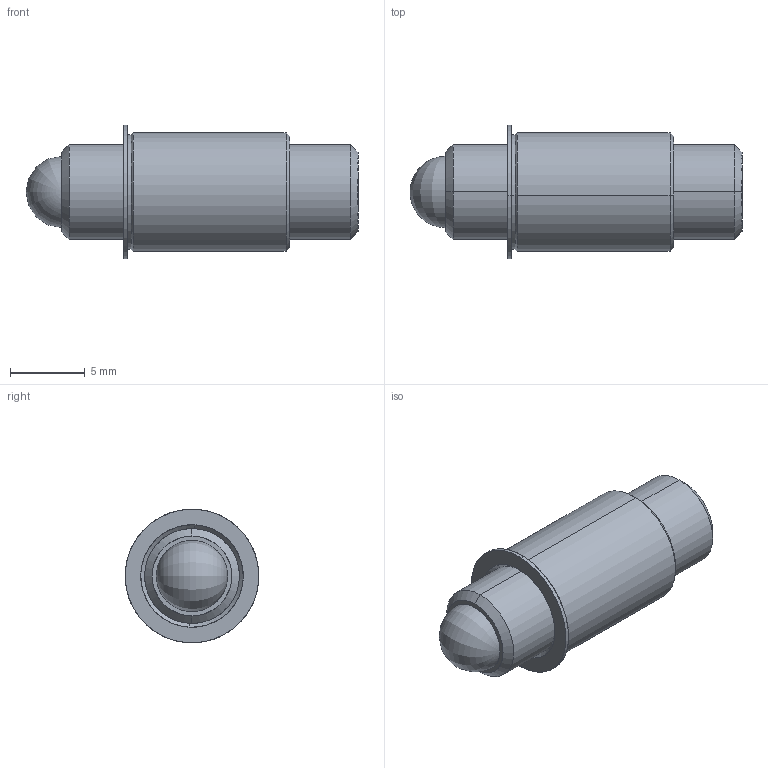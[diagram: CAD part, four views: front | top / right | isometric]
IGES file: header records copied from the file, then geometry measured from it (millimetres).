
Start section: SolidWorks IGES file using analytic representation for surfaces
Global section: file name: C:\Users\workpc\Desktop\KMA Solidworks\TSB250-80-875_437-AA.IGS; native system: SolidWorks 2013; preprocessor: SolidWorks 2013; author: workpc; date: 130314.084044; units: inch
Bounding box: 22.22 x 8.93 x 8.93 mm (x, y, z)
Surface area: 857.6 mm2 (no closed solid volume)
Topology: 0 solids, 0 shells, 33 faces, 406 edges, 402 vertices
Faces by surface type: revolution 22, bspline 11
